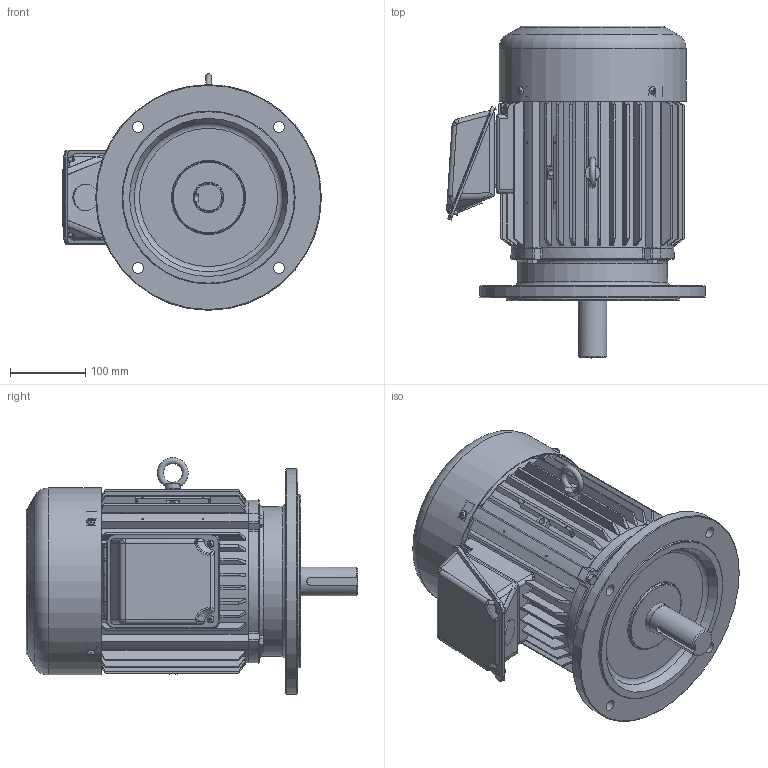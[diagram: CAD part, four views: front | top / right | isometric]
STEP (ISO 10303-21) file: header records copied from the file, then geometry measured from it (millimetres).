
FILE_DESCRIPTION(/* description */ ('Unknown'),/* implementation_level */ '2;1');
FILE_NAME(/* name */ '1-SMA-33832_외형도(205DIA)',/* time_stamp */ '2026-07-24T08:52:06+09:00',/* author */ ('Unknown'),/* organization */ ('Unknown'),/* preprocessor_version */ 'ST-DEVELOPER v16',/* originating_system */ 'DEX',/* authorisation */ $);
FILE_SCHEMA (('AUTOMOTIVE_DESIGN {1 0 10303 214 3 1 1}'));
Products named in the file (19): 1-SMA-33832_寇屈档(205DI; 2-SMA-30804_FRAME(205DIA); 3-SMA-30805_擅粽塭鰍(205D; 4-SMA-30800_µÚºê¶óÄÏ(205D´¾|·Ï(; 5-SMA-30806_SHAFT(205DIA); 6-SMA-31244_FAN(205DIA); 7-SMA-30803_FAN COVER(205DIA); 8-SMA-33050_T-BOX(鼻)(205~260DIA); 9-SMA-33051_T-BOX(ﾇﾏ)(205~260DIA)d; I獐お M10x1.5x18; 幫陝獐お M8x1.25x; 菅斬 褊濠 M6x1x; 6306ZZ; 蹴辨 S2; 6308ZZ; 5.5~15kW(7.5~20HP)_攪嘐割 夢蝶(205~260n; 褊濠 菅斬 該葬 獐お M5x; T-BOX 歜衛 馨檜綰斜楠萄(205~傽(; T-BOX 憶っ(205~260DIA) V
Assembly tree (31 placements, depth 3):
  1-SMA-33832_寇屈档(205DI
    2-SMA-30804_FRAME(205DIA)
    3-SMA-30805_擅粽塭鰍(205D
    4-SMA-30800_µÚºê¶óÄÏ(205D´¾|·Ï(
    5-SMA-30806_SHAFT(205DIA)
    6-SMA-31244_FAN(205DIA)
    7-SMA-30803_FAN COVER(205DIA)
    8-SMA-33050_T-BOX(鼻)(205~260DIA)
    9-SMA-33051_T-BOX(ﾇﾏ)(205~260DIA)d
    I獐お M10x1.5x18
    幫陝獐お M8x1.25x  x8
    菅斬 褊濠 M6x1x  x4
    6306ZZ
    蹴辨 S2
    6308ZZ
    5.5~15kW(7.5~20HP)_攪嘐割 夢蝶(205~260n
      8-SMA-33050_T-BOX(鼻)(205~260DIA)
      9-SMA-33051_T-BOX(ﾇﾏ)(205~260DIA)d
      褊濠 菅斬 該葬 獐お M5x  x2
      T-BOX 歜衛 馨檜綰斜楠萄(205~傽(
      T-BOX 憶っ(205~260DIA) V
Bounding box: 343.99 x 441 x 314.49 mm (x, y, z)
Volume: 3996815.5 mm3; surface area: 1538608.3 mm2
Topology: 52 solids, 52 shells, 2148 faces, 5402 edges, 3401 vertices
Faces by surface type: plane 735, cylinder 653, cone 343, torus 211, bspline 158, sphere 48
Full cylindrical faces by diameter (mm): 2 x2, 2.2 x4, 4.134 x4, 4.917 x6, 5 x2, 6 x8, 6.6 x4, 6.647 x16, 7 x4, 8 x17, 8.376 x2, 9 x2, 10 x10, 15 x4, 20 x1, 25 x1, 25.3 x1, 29.8 x1, 30 x2, 30.6 x1, 35 x3, 38 x1, 39.8 x1, 40 x5, 40.1 x1, 40.6 x1, 42 x2, 42.4 x2, 44 x3, 54.286 x2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
Entity records: 75989 total; most frequent: CARTESIAN_POINT 29622, ORIENTED_EDGE 8406, DIRECTION 8405, EDGE_CURVE 4203, AXIS2_PLACEMENT_3D 3493, VERTEX_POINT 2782, FACE_BOUND 2227, EDGE_LOOP 2198
